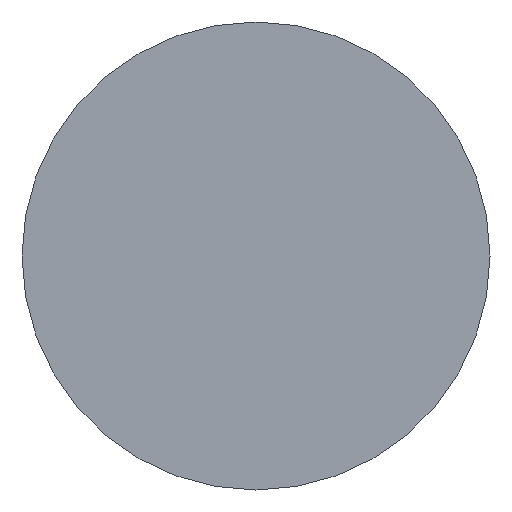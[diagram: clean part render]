
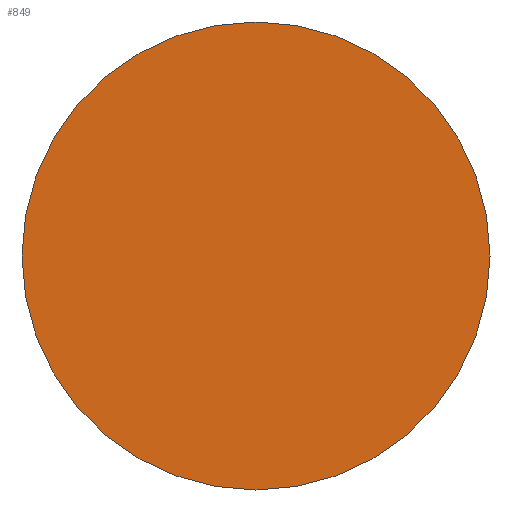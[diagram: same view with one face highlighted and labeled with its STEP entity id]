
A CAD part, front view. The second image highlights one B-rep face of the part: STEP entity #849.
In plain terms, the highlighted planar face has unit normal (0, -1, 0).
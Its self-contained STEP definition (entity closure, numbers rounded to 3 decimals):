
#244 = PLANE ( 'NONE',  #728 ) ;
#336 = CARTESIAN_POINT ( 'NONE',  ( 19.5, -54.5, 36.5 ) ) ;
#469 = DIRECTION ( 'NONE',  ( -1., 0., 0. ) ) ;
#526 = DIRECTION ( 'NONE',  ( 0., -1., 0. ) ) ;
#556 = CARTESIAN_POINT ( 'NONE',  ( 0., -54.5, 36.5 ) ) ;
#652 = AXIS2_PLACEMENT_3D ( 'NONE', #556, #2008, #766 ) ;
#728 = AXIS2_PLACEMENT_3D ( 'NONE', #1285, #1712, #469 ) ;
#766 = DIRECTION ( 'NONE',  ( -1., 0., 0. ) ) ;
#849 = ADVANCED_FACE ( 'NONE', ( #874 ), #244, .T. ) ;
#859 = CARTESIAN_POINT ( 'NONE',  ( -19.5, -54.5, 36.5 ) ) ;
#874 = FACE_OUTER_BOUND ( 'NONE', #2424, .T. ) ;
#957 = EDGE_CURVE ( 'NONE', #1866, #2009, #2167, .T. ) ;
#1111 = CIRCLE ( 'NONE', #652, 19.5 ) ;
#1176 = ORIENTED_EDGE ( 'NONE', *, *, #1834, .T. ) ;
#1272 = AXIS2_PLACEMENT_3D ( 'NONE', #1771, #526, #1984 ) ;
#1285 = CARTESIAN_POINT ( 'NONE',  ( 9.75, -54.5, 36.5 ) ) ;
#1712 = DIRECTION ( 'NONE',  ( 0., -1., 0. ) ) ;
#1771 = CARTESIAN_POINT ( 'NONE',  ( 0., -54.5, 36.5 ) ) ;
#1834 = EDGE_CURVE ( 'NONE', #2009, #1866, #1111, .T. ) ;
#1866 = VERTEX_POINT ( 'NONE', #336 ) ;
#1984 = DIRECTION ( 'NONE',  ( -1., 0., 0. ) ) ;
#2008 = DIRECTION ( 'NONE',  ( 0., -1., 0. ) ) ;
#2009 = VERTEX_POINT ( 'NONE', #859 ) ;
#2167 = CIRCLE ( 'NONE', #1272, 19.5 ) ;
#2424 = EDGE_LOOP ( 'NONE', ( #1176, #2625 ) ) ;
#2625 = ORIENTED_EDGE ( 'NONE', *, *, #957, .T. ) ;
